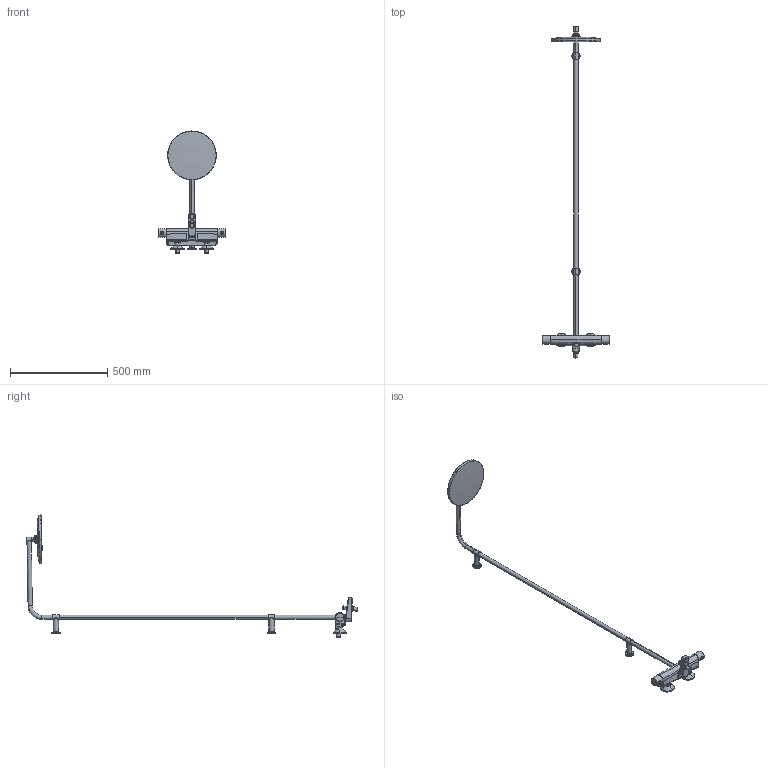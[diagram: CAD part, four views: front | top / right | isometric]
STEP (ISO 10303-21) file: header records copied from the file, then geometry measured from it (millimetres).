
FILE_DESCRIPTION (( 'STEP AP203' ), '1' );
FILE_NAME ('7193N(2023)+7193N-33(2023)+7193NU(2023)+65162201(2023).STEP', '2023-02-09T09:24:34', ( '' ), ( '' ), 'SwSTEP 2.0', 'SolidWorks 2016', '' );
FILE_SCHEMA (( 'CONFIG_CONTROL_DESIGN' ));
Products named in the file (1): 7193N(2023)+7193N-33(2023)+7193NU(2023)+65162201(2023)
Bounding box: 342.65 x 1704.75 x 626.86 mm (x, y, z)
Surface area: 427974.8 mm2 (no closed solid volume)
Topology: 0 solids, 4 shells, 975 faces, 2350 edges, 1391 vertices
Faces by surface type: bspline 540, cylinder 177, plane 129, cone 65, torus 46, sphere 18
Entity records: 61792 total; most frequent: CARTESIAN_POINT 43381, ORIENTED_EDGE 4632, DIRECTION 2619, EDGE_CURVE 2318, VERTEX_POINT 1391, B_SPLINE_CURVE_WITH_KNOTS 1145, AXIS2_PLACEMENT_3D 1119, EDGE_LOOP 1021
